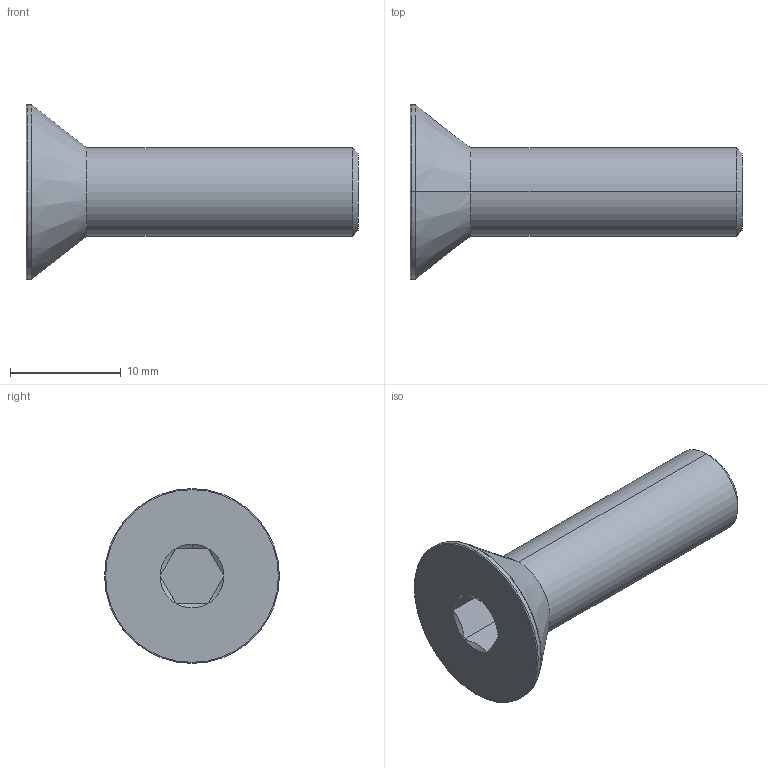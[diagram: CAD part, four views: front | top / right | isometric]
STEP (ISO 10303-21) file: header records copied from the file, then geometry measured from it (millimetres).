
FILE_DESCRIPTION (( 'STEP AP203' ), '1' );
FILE_NAME ('LGDB-TDE-M8x30.STEP', '2026-08-10T13:22:19', ( '' ), ( '' ), 'SwSTEP 2.0', 'SolidWorks 2020', '' );
FILE_SCHEMA (( 'CONFIG_CONTROL_DESIGN' ));
Length unit declared in the file: millimetre
Products named in the file (1): LGDB-TDE-M8x30
Bounding box: 30 x 15.8 x 15.8 mm (x, y, z)
Volume: 1815.3 mm3; surface area: 1181.2 mm2
Topology: 1 solids, 1 shells, 28 faces, 53 edges, 28 vertices
Faces by surface type: cone 11, plane 9, torus 4, cylinder 4
Entity records: 796 total; most frequent: CARTESIAN_POINT 157, DIRECTION 129, ORIENTED_EDGE 106, AXIS2_PLACEMENT_3D 54, EDGE_CURVE 53, EDGE_LOOP 29, FACE_OUTER_BOUND 28, ADVANCED_FACE 28
